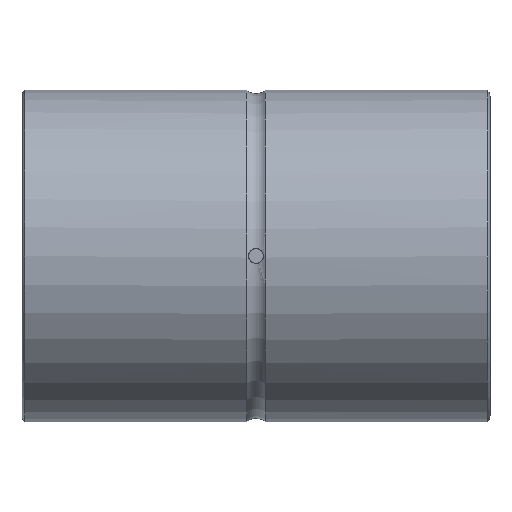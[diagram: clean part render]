
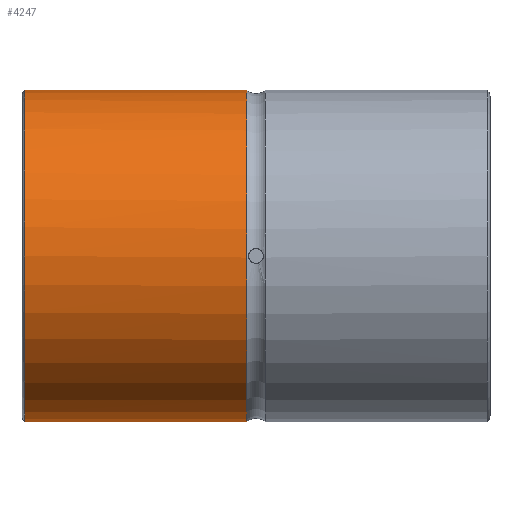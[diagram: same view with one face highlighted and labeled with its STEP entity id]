
A CAD part, front view. The second image highlights one B-rep face of the part: STEP entity #4247.
In plain terms, the highlighted cylindrical face has radius 45 mm (diameter 90 mm), a full revolution.
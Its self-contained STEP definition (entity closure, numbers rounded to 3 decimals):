
#23=B_SPLINE_CURVE_WITH_KNOTS('',3,(#6993,#6994,#6995,#6996,#6997,#6998,
#6999,#7000,#7001,#7002,#7003),.UNSPECIFIED.,.F.,.F.,(4,1,1,1,1,1,1,1,4),
(0.,0.004,0.007,0.011,0.014,
0.018,0.021,0.025,0.028),
 .UNSPECIFIED.);
#370=LINE('',#7006,#764);
#371=LINE('',#7007,#765);
#764=VECTOR('',#5609,1000.);
#765=VECTOR('',#5610,1000.);
#1504=ORIENTED_EDGE('',*,*,#2577,.T.);
#1505=ORIENTED_EDGE('',*,*,#2578,.T.);
#1506=ORIENTED_EDGE('',*,*,#2570,.F.);
#1507=ORIENTED_EDGE('',*,*,#2579,.T.);
#1508=ORIENTED_EDGE('',*,*,#2576,.T.);
#2570=EDGE_CURVE('',#3104,#3105,#3427,.T.);
#2576=EDGE_CURVE('',#3110,#3110,#3429,.T.);
#2577=EDGE_CURVE('',#3111,#3112,#23,.T.);
#2578=EDGE_CURVE('',#3112,#3105,#370,.T.);
#2579=EDGE_CURVE('',#3104,#3111,#371,.F.);
#3104=VERTEX_POINT('',#6942);
#3105=VERTEX_POINT('',#6943);
#3110=VERTEX_POINT('',#6991);
#3111=VERTEX_POINT('',#7004);
#3112=VERTEX_POINT('',#7005);
#3427=CIRCLE('',#4676,45.);
#3429=CIRCLE('',#4679,45.);
#3597=EDGE_LOOP('',(#1504,#1505,#1506,#1507));
#3598=EDGE_LOOP('',(#1508));
#3877=FACE_BOUND('',#3597,.T.);
#3878=FACE_BOUND('',#3598,.T.);
#4110=CYLINDRICAL_SURFACE('',#4680,45.);
#4247=ADVANCED_FACE('',(#3877,#3878),#4110,.T.);
#4676=AXIS2_PLACEMENT_3D('',#6941,#5599,#5600);
#4679=AXIS2_PLACEMENT_3D('',#6990,#5605,#5606);
#4680=AXIS2_PLACEMENT_3D('',#6992,#5607,#5608);
#5599=DIRECTION('',(1.,0.,0.));
#5600=DIRECTION('',(0.,0.,-1.));
#5605=DIRECTION('',(1.,0.,0.));
#5606=DIRECTION('',(0.,0.,-1.));
#5607=DIRECTION('',(1.,0.,0.));
#5608=DIRECTION('',(0.,0.,-1.));
#5609=DIRECTION('',(1.,0.,0.));
#5610=DIRECTION('',(1.,0.,0.));
#6941=CARTESIAN_POINT('',(-2.53,0.,0.));
#6942=CARTESIAN_POINT('',(-2.53,44.091,9.));
#6943=CARTESIAN_POINT('',(-2.53,44.091,-9.));
#6990=CARTESIAN_POINT('',(-62.7,0.,0.));
#6991=CARTESIAN_POINT('',(-62.7,0.,-45.));
#6992=CARTESIAN_POINT('',(63.5,0.,0.));
#6993=CARTESIAN_POINT('',(-25.,44.091,9.));
#6994=CARTESIAN_POINT('',(-26.192,44.091,9.));
#6995=CARTESIAN_POINT('',(-28.539,44.191,8.527));
#6996=CARTESIAN_POINT('',(-31.53,44.548,6.528));
#6997=CARTESIAN_POINT('',(-33.526,44.902,3.545));
#6998=CARTESIAN_POINT('',(-34.236,45.049,0.008));
#6999=CARTESIAN_POINT('',(-33.532,44.903,-3.533));
#7000=CARTESIAN_POINT('',(-31.532,44.549,-6.526));
#7001=CARTESIAN_POINT('',(-28.543,44.192,-8.526));
#7002=CARTESIAN_POINT('',(-26.192,44.091,-9.));
#7003=CARTESIAN_POINT('',(-25.,44.091,-9.));
#7004=CARTESIAN_POINT('',(-25.,44.091,9.));
#7005=CARTESIAN_POINT('',(-25.,44.091,-9.));
#7006=CARTESIAN_POINT('',(63.5,44.091,-9.));
#7007=CARTESIAN_POINT('',(63.5,44.091,9.));
